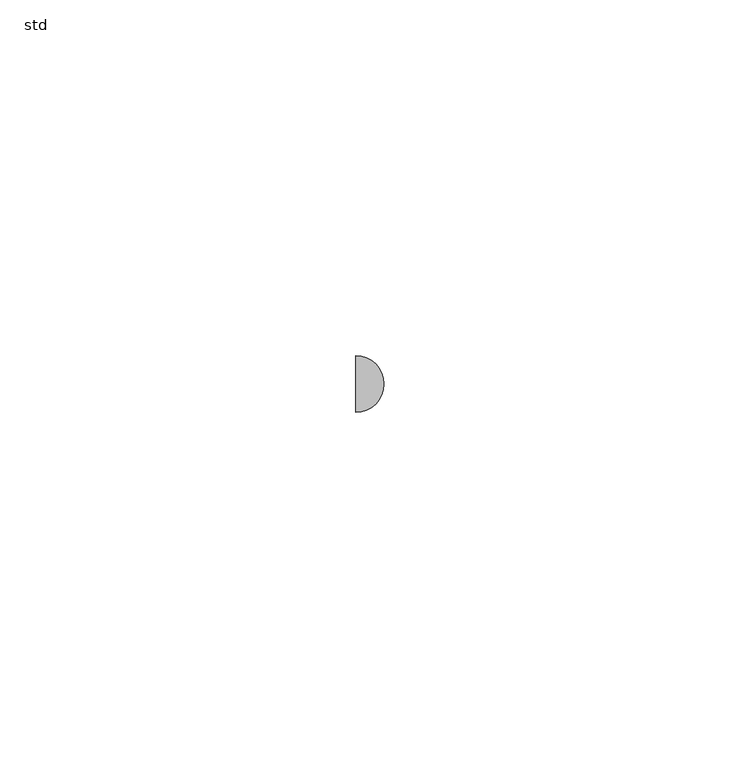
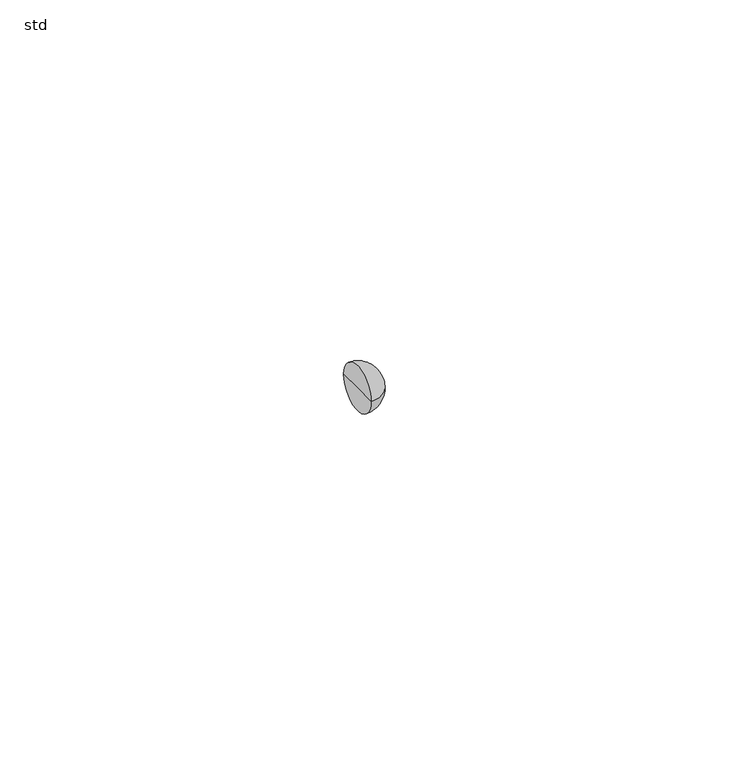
"""IFC4 building model written with IfcOpenShell, lengths in millimetres: pipe fitting geometry, PIF_ST_UN_GM-X multireducer_ACO : std."""

from ifc_helpers import new_model, si_unit, point, frame, origin, place, context, project, spatial, circle_curve, ellipse_curve, trimmed, source, transform, mapped, element, save
from ifc_brep_helpers import plane_surface, revolved_surface, advanced_brep


def std_2878dd30(model_context):
    return source(origin(), model_context, "Body", "AdvancedBrep", [
        advanced_brep(
        [(-85.0, 0.0, 0.0), (-85.0, 4.0, 0.0), (-85.0, -4.0, 0.0), (-81.0, 0.0, 0.0)],
        [
            (0, 1),
            (1, 2, circle_curve(frame((-85.0, 0.0, 0.0), z_axis=(-1.0, 0.0, 0.0), x_axis=(0.0, 1.0, 0.0)), 4.0)),
            (2, 0),
            (2, 1, circle_curve(frame((-85.0, 0.0, 0.0), z_axis=(-1.0, 0.0, 0.0), x_axis=(0.0, 1.0, 0.0)), 4.0)),
            (1, 3, circle_curve(frame((-85.0, 0.0, 0.0), z_axis=(0.0, 0.0, -1.0), x_axis=(1.0, 0.0, 0.0)), 4.0)),
            (3, 2, circle_curve(frame((-85.0, 0.0, 0.0), z_axis=(0.0, 0.0, -1.0), x_axis=(1.0, 0.0, 0.0)), 4.0)),
        ],
        [
            plane_surface(frame((-85.0, 0.0, 0.0), z_axis=(-1.0, 0.0, 0.0), x_axis=(0.0, 1.0, 0.0))),
            revolved_surface(trimmed(ellipse_curve(frame((-85.0, 0.0, 0.0), z_axis=(0.0, 0.0, 1.0), x_axis=(1.0, 0.0, 0.0)), 4.0, 4.0), [point((-81.0, 0.0, 0.0))], [point((-85.0, 4.0, 0.0))], True, "CARTESIAN"), (-98.6508039, 0.0, 0.0), (-1.0, 0.0, 0.0)),
        ],
        [
            (0, [[1, 2, 3]]),
            (0, [[-3, 4, -1]]),
            (1, [[-2, 5, 6]]),
            (1, [[-4, -6, -5]]),
        ],
    ),
    ])


if __name__ == "__main__":
    model = new_model("IFC4")
    model_context = context("Model", 3, world=origin())
    ifc_project = project(units=[si_unit("LENGTHUNIT", "METRE", prefix="MILLI")], contexts=[model_context])
    site = spatial("IfcSite", under=ifc_project)
    building = spatial("IfcBuilding", under=site)
    placement = place(None, origin())
    std_shape = std_2878dd30(model_context)
    element("IfcPipeFitting", 1, ObjectType="PIF_ST_UN_GM-X multireducer_ACO : std", at=placement, inside=building, context=model_context, shape_type="MappedRepresentation", body=[
        mapped(std_shape, transform((0.0, 0.0, 0.0), x_axis=(1.0, 0.0, 0.0), y_axis=(0.0, 1.0, 0.0), z_axis=(0.0, 0.0, 1.0))),
    ])
    save(model, "model.ifc")
